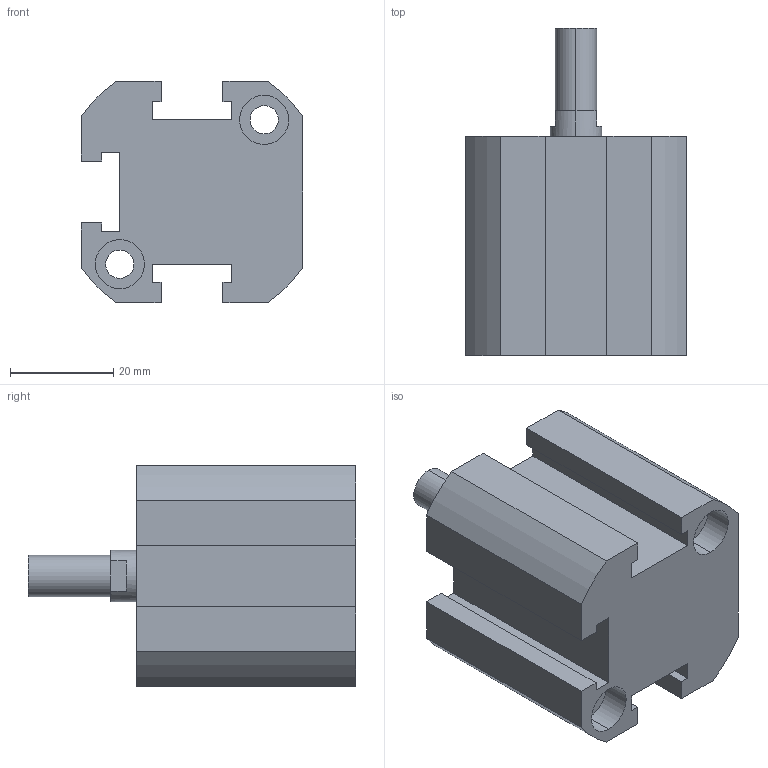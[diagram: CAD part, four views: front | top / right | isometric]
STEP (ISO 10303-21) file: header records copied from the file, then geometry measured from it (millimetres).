
FILE_DESCRIPTION (( 'STEP AP203' ), '1' );
FILE_NAME ('XG#M2-25D-10.STEP', '2016-05-24T02:11:39', ( '' ), ( '' ), 'SwSTEP 2.0', 'SolidWorks 2014', '' );
FILE_SCHEMA (( 'CONFIG_CONTROL_DESIGN' ));
Length unit declared in the file: millimetre
Products named in the file (1): XG#M2-25D-10
Bounding box: 43 x 63.5 x 43 mm (x, y, z)
Volume: 59216.3 mm3; surface area: 15208.6 mm2
Topology: 1 solids, 1 shells, 92 faces, 235 edges, 152 vertices
Faces by surface type: plane 46, cylinder 42, cone 4
Entity records: 2862 total; most frequent: DIRECTION 507, CARTESIAN_POINT 476, ORIENTED_EDGE 462, EDGE_CURVE 231, AXIS2_PLACEMENT_3D 183, VERTEX_POINT 152, LINE 141, VECTOR 141
